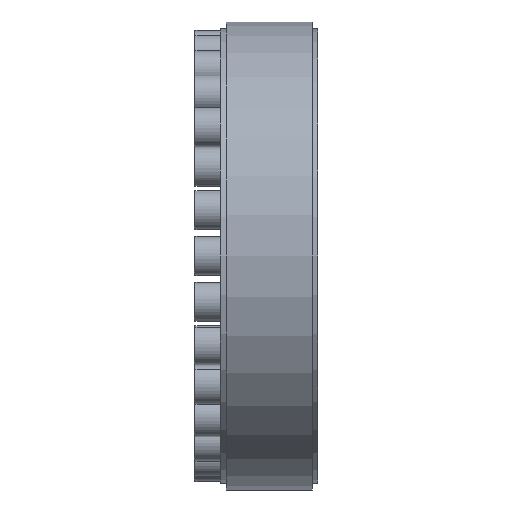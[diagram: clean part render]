
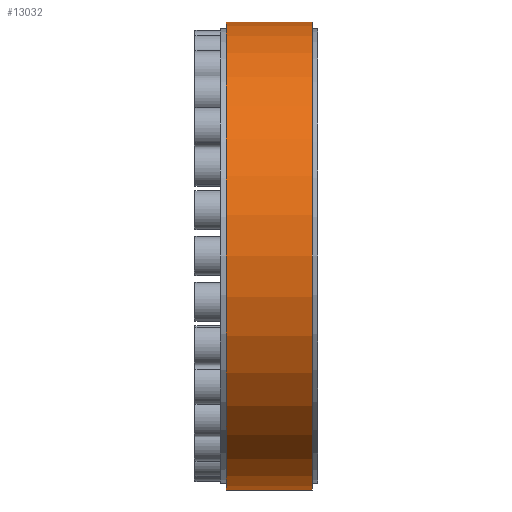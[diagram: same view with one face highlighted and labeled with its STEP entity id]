
A CAD part, front view. The second image highlights one B-rep face of the part: STEP entity #13032.
In plain terms, the highlighted cylindrical face has radius 125 mm (diameter 250 mm), a partial arc.
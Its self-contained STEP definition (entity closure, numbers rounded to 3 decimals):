
#9888 = DIRECTION ( 'NONE',  ( 0., 0., 1. ) ) ;
#9889 = DIRECTION ( 'NONE',  ( -1., 0., 0. ) ) ;
#9890 = CARTESIAN_POINT ( 'NONE',  ( 0., 0., 0. ) ) ;
#9891 = AXIS2_PLACEMENT_3D ( 'NONE', #9890, #9889, #9888 ) ;
#9893 = CYLINDRICAL_SURFACE ( 'NONE', #9891, 125. ) ;
#9894 = FACE_OUTER_BOUND ( 'NONE', #13030, .T. ) ;
#9975 = DIRECTION ( 'NONE',  ( -1., 0., 0. ) ) ;
#9976 = VECTOR ( 'NONE', #9975, 1000. ) ;
#9977 = CARTESIAN_POINT ( 'NONE',  ( 0., 0., 125. ) ) ;
#9978 = LINE ( 'NONE', #9977, #9976 ) ;
#9979 = CARTESIAN_POINT ( 'NONE',  ( 3., 0., 125. ) ) ;
#9985 = CARTESIAN_POINT ( 'NONE',  ( 3., 0., -125. ) ) ;
#9986 = DIRECTION ( 'NONE',  ( -1., 0., 0. ) ) ;
#9987 = VECTOR ( 'NONE', #9986, 1000. ) ;
#9988 = CARTESIAN_POINT ( 'NONE',  ( 0., 0., -125. ) ) ;
#9989 = LINE ( 'NONE', #9988, #9987 ) ;
#9990 = CARTESIAN_POINT ( 'NONE',  ( 49., 0., -125. ) ) ;
#9991 = CARTESIAN_POINT ( 'NONE',  ( 49., 0., 125. ) ) ;
#12897 = DIRECTION ( 'NONE',  ( 0., 0., 1. ) ) ;
#12898 = DIRECTION ( 'NONE',  ( -1., 0., 0. ) ) ;
#12899 = CARTESIAN_POINT ( 'NONE',  ( 3., 0., 0. ) ) ;
#12900 = AXIS2_PLACEMENT_3D ( 'NONE', #12899, #12898, #12897 ) ;
#12901 = CIRCLE ( 'NONE', #12900, 125. ) ;
#12919 = DIRECTION ( 'NONE',  ( 0., 0., 1. ) ) ;
#12920 = DIRECTION ( 'NONE',  ( -1., 0., 0. ) ) ;
#12921 = CARTESIAN_POINT ( 'NONE',  ( 49., 0., 0. ) ) ;
#12922 = AXIS2_PLACEMENT_3D ( 'NONE', #12921, #12920, #12919 ) ;
#12923 = CIRCLE ( 'NONE', #12922, 125. ) ;
#13029 = ORIENTED_EDGE ( 'NONE', *, *, #13089, .F. ) ;
#13030 = EDGE_LOOP ( 'NONE', ( #13029, #14771, #14773, #14770 ) ) ;
#13032 = ADVANCED_FACE ( 'NONE', ( #9894 ), #9893, .T. ) ;
#13086 = VERTEX_POINT ( 'NONE', #9991 ) ;
#13087 = VERTEX_POINT ( 'NONE', #9990 ) ;
#13089 = EDGE_CURVE ( 'NONE', #13087, #13090, #9989, .T. ) ;
#13090 = VERTEX_POINT ( 'NONE', #9985 ) ;
#13093 = VERTEX_POINT ( 'NONE', #9979 ) ;
#13095 = EDGE_CURVE ( 'NONE', #13086, #13093, #9978, .T. ) ;
#14758 = EDGE_CURVE ( 'NONE', #13087, #13086, #12923, .T. ) ;
#14770 = ORIENTED_EDGE ( 'NONE', *, *, #14772, .F. ) ;
#14771 = ORIENTED_EDGE ( 'NONE', *, *, #14758, .T. ) ;
#14772 = EDGE_CURVE ( 'NONE', #13090, #13093, #12901, .T. ) ;
#14773 = ORIENTED_EDGE ( 'NONE', *, *, #13095, .T. ) ;
